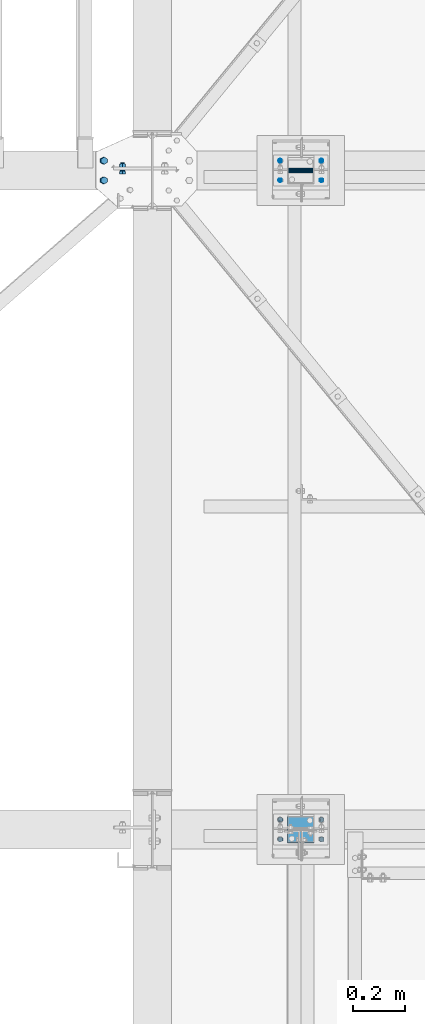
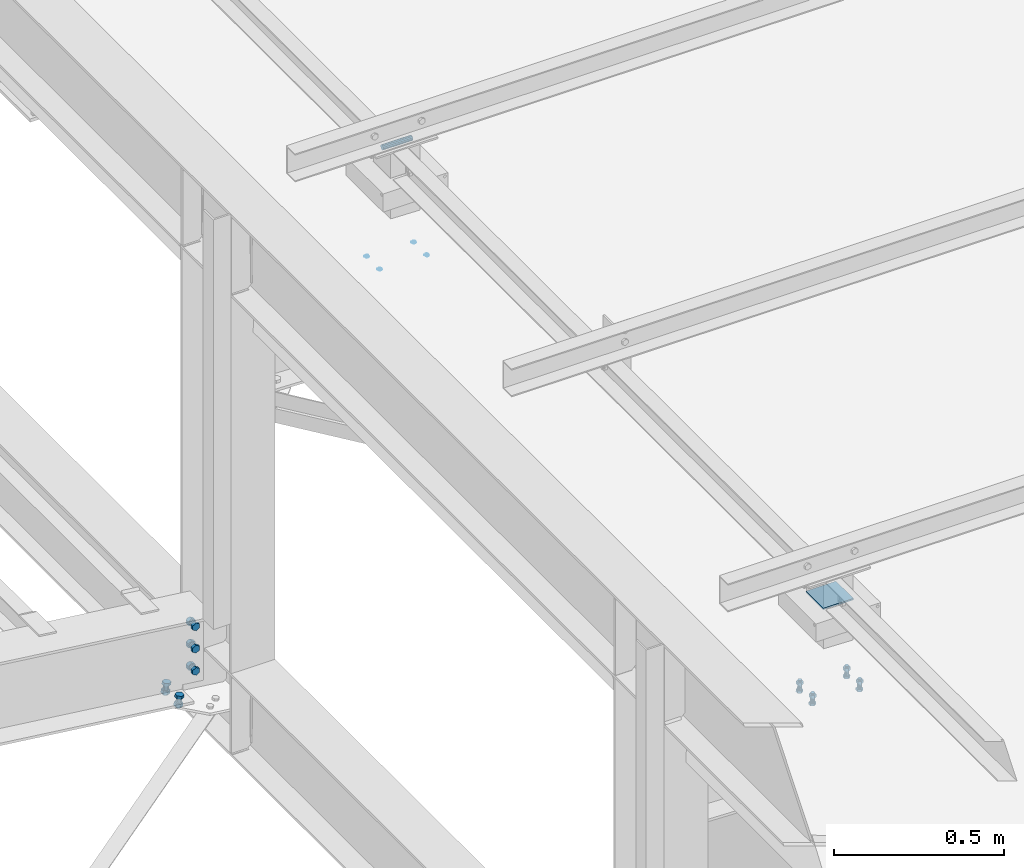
# One storey, part 304 of 3134: 6 mechanical fasteners, 5 elements without a shape of their own.
"""IFC2X3 building model written with IfcOpenShell, lengths in millimetres."""

import ifcopenshell
import ifcopenshell.guid

model = None  # the IFC model being written
_history = None  # IfcOwnerHistory: only IFC2X3 demands one
_inside = {}  # id of a spatial element -> (the spatial element, [elements in it])
_under = {}  # id of a project, library or spatial element -> (it, [spatial elements below it])
_declared = {}  # id of a project -> (the project, [libraries it declares])
_typed = {}  # id of a type object -> (the type object, [elements of that type])
_made_of = {}  # id of a material, layer set ... -> (it, [elements and type objects made of it])


def new_model(schema):
    """Start an empty IFC model of exactly this schema.

    Asked for "IFC4X3", IfcOpenShell would pick the latest addendum, in which some entities
    have other attributes; the version numbers below select the first issue.
    IFC2X3 requires an IfcOwnerHistory on every rooted entity: one is made here for all.
    """
    global model, _history
    if schema == "IFC4X3":
        model = ifcopenshell.file(schema_version=(4, 3, 0, 0))
    else:
        model = ifcopenshell.file(schema=schema)
    _inside.clear()
    _under.clear()
    _declared.clear()
    _typed.clear()
    _made_of.clear()
    _history = None
    if model.schema == "IFC2X3":
        org = make("IfcOrganization", Name="unknown")
        user = make(
            "IfcPersonAndOrganization",
            ThePerson=make("IfcPerson", FamilyName="unknown"),
            TheOrganization=org,
        )
        app = make(
            "IfcApplication",
            ApplicationDeveloper=org,
            Version="unknown",
            ApplicationFullName="unknown",
            ApplicationIdentifier="unknown",
        )
        _history = make(
            "IfcOwnerHistory",
            OwningUser=user,
            OwningApplication=app,
            ChangeAction="ADDED",
            CreationDate=0,
        )
    return model


def make(cls, **values):
    """One entity of the class cls with the attributes given. An attribute that is None is left unset."""
    return model.create_entity(
        cls, **{name: value for name, value in values.items() if value is not None}
    )


def rooted(cls, **values):
    """An entity with a GlobalId (a new one), such as an element, a storey or a relation."""
    return make(cls, GlobalId=ifcopenshell.guid.new(), OwnerHistory=_history, **values)


def si_unit(unit_type, name, prefix=None):
    """IfcSIUnit, for example si_unit("LENGTHUNIT", "METRE", prefix="MILLI")."""
    return make("IfcSIUnit", UnitType=unit_type, Prefix=prefix, Name=name)


def assignment(units):
    """IfcUnitAssignment: the units of a project."""
    return None if units is None else make("IfcUnitAssignment", Units=units)


def point(xyz):
    """IfcCartesianPoint."""
    return None if xyz is None else make("IfcCartesianPoint", Coordinates=xyz)


def direction(xyz):
    """IfcDirection."""
    return None if xyz is None else make("IfcDirection", DirectionRatios=xyz)


def frame(location, z_axis=None, x_axis=None):
    """IfcAxis2Placement3D, a coordinate frame: its origin and axes. An axis left out is left unset."""
    return make(
        "IfcAxis2Placement3D",
        Location=point(location),
        Axis=direction(z_axis),
        RefDirection=direction(x_axis),
    )


def origin_with_axes():
    """The frame at (0, 0, 0) with the z axis (0, 0, 1) and the x axis (1, 0, 0) written out."""
    return frame((0.0, 0.0, 0.0), z_axis=(0.0, 0.0, 1.0), x_axis=(1.0, 0.0, 0.0))


def place(relative_to, where):
    """IfcLocalPlacement: puts the frame where relative to a parent placement (None: the world)."""
    return make(
        "IfcLocalPlacement", PlacementRelTo=relative_to, RelativePlacement=where
    )


def context(
    kind, dimensions, precision=None, world=None, true_north=None, identifier=None
):
    """IfcGeometricRepresentationContext, for example the 3D "Model" context."""
    return make(
        "IfcGeometricRepresentationContext",
        ContextIdentifier=identifier,
        ContextType=kind,
        CoordinateSpaceDimension=dimensions,
        Precision=precision,
        WorldCoordinateSystem=world,
        TrueNorth=true_north,
    )


def subcontext(parent, identifier, kind, view, scale=None):
    """IfcGeometricRepresentationSubContext, for example "Body" below "Model"."""
    return make(
        "IfcGeometricRepresentationSubContext",
        ContextIdentifier=identifier,
        ContextType=kind,
        ParentContext=parent,
        TargetScale=scale,
        TargetView=view,
    )


def project(units=None, contexts=None):
    """IfcProject with its units and contexts."""
    return rooted(
        "IfcProject",
        Name="project",
        RepresentationContexts=contexts,
        UnitsInContext=assignment(units),
    )


def spatial(cls, under=None, at=None, **own):
    """A site, building, storey or space (cls), placed at a placement, below another one or the project."""
    s = rooted(cls, ObjectPlacement=at, **own)
    if under is not None:
        _under.setdefault(under.id(), (under, []))[1].append(s)
    return s


def faces_of(points, faces, orient=None, outer=None):
    """IfcFace entities. A face is a list of loops; a loop is a list of indices into points, from 0.

    orient and outer hold one flag for each loop. By default every Orientation is true, the
    first loop of a face is its IfcFaceOuterBound and the others are IfcFaceBound.
    """
    made = []
    for i, loops in enumerate(faces):
        bounds = []
        for j, loop in enumerate(loops):
            is_outer = j == 0 if outer is None else outer[i][j]
            bounds.append(
                make(
                    "IfcFaceOuterBound" if is_outer else "IfcFaceBound",
                    Bound=make("IfcPolyLoop", Polygon=[points[k] for k in loop]),
                    Orientation=True if orient is None else orient[i][j],
                )
            )
        made.append(make("IfcFace", Bounds=bounds))
    return made


def faceted_brep(points, faces, orient=None, outer=None, voids=None):
    """IfcFacetedBrep: a solid bounded by flat faces; with voids (closed shells), ...WithVoids."""
    shared = [point(p) for p in points]
    hull = make("IfcClosedShell", CfsFaces=faces_of(shared, faces, orient, outer))
    if voids is None:
        return make("IfcFacetedBrep", Outer=hull)
    return make(
        "IfcFacetedBrepWithVoids",
        Outer=hull,
        Voids=[
            make(cls, CfsFaces=faces_of(shared, fs, o, b)) for cls, fs, o, b in voids
        ],
    )


def shape(context_of_items, identifier, shape_type, items):
    """IfcShapeRepresentation: the items that make up one representation, for example the "Body"."""
    return make(
        "IfcShapeRepresentation",
        ContextOfItems=context_of_items,
        RepresentationIdentifier=identifier,
        RepresentationType=shape_type,
        Items=items,
    )


def source(mapping_origin, context_of_items, identifier, shape_type, items):
    """IfcRepresentationMap: a shape defined once, which mapped items show again and again."""
    return make(
        "IfcRepresentationMap",
        MappingOrigin=mapping_origin,
        MappedRepresentation=shape(context_of_items, identifier, shape_type, items),
    )


def transform(
    local_origin,
    x_axis=None,
    y_axis=None,
    z_axis=None,
    scale=None,
    scale2=None,
    scale3=None,
    uniform=True,
):
    """IfcCartesianTransformationOperator3D, or its non-uniform kind. x_axis, y_axis, z_axis: its Axis1, 2, 3."""
    if uniform:
        return make(
            "IfcCartesianTransformationOperator3D",
            Axis1=direction(x_axis),
            Axis2=direction(y_axis),
            LocalOrigin=point(local_origin),
            Scale=scale,
            Axis3=direction(z_axis),
        )
    return make(
        "IfcCartesianTransformationOperator3DnonUniform",
        Axis1=direction(x_axis),
        Axis2=direction(y_axis),
        LocalOrigin=point(local_origin),
        Scale=scale,
        Axis3=direction(z_axis),
        Scale2=scale2,
        Scale3=scale3,
    )


def mapped(mapping_source, mapping_target):
    """IfcMappedItem: shows the shape of a source again, moved by a transform."""
    return make(
        "IfcMappedItem", MappingSource=mapping_source, MappingTarget=mapping_target
    )


def material(Name=None, Category=None):
    """IfcMaterial."""
    return make("IfcMaterial", Name=Name, Category=Category)


def made_of(thing, what):
    """Note that an element or type object is made of a material, layer set ...; save() writes the relation."""
    if what is not None:
        _made_of.setdefault(what.id(), (what, []))[1].append(thing)
    return thing


def type_object(cls, material=None, **own):
    """A type object (cls), such as IfcWallType, which elements share."""
    return made_of(rooted(cls, **own), material)


def element(
    cls,
    number,
    at=None,
    inside=None,
    cuts=None,
    type_object=None,
    material=None,
    context=None,
    identifier="Body",
    shape_type=None,
    held_by="IfcProductDefinitionShape",
    body=None,
    shapes=None,
    **own,
):
    """One element of the class cls, such as IfcWall. Its Tag is "e" and its number.

    at: its placement. inside: the storey or other place that contains it. cuts: it is an
    opening in that element (IfcRelVoidsElement). A single representation is given by context,
    identifier, shape_type and body (its items); several are given by shapes. held_by: the class
    of the entity that holds the representations. save() writes the other relations.
    """
    e = rooted(cls, Tag="e%d" % number, ObjectPlacement=at, **own)
    if body is not None:
        shapes = [shape(context, identifier, shape_type, body)]
    if shapes is not None:
        e.Representation = make(held_by, Representations=shapes)
    if inside is not None:
        _inside.setdefault(inside.id(), (inside, []))[1].append(e)
    if cuts is not None:
        rooted(
            "IfcRelVoidsElement", RelatingBuildingElement=cuts, RelatedOpeningElement=e
        )
    if type_object is not None:
        _typed.setdefault(type_object.id(), (type_object, []))[1].append(e)
    return made_of(e, material)


def aggregate(whole, parts):
    """IfcRelAggregates: a whole, such as a stair, and the parts it consists of."""
    return rooted("IfcRelAggregates", RelatingObject=whole, RelatedObjects=parts)


def save(model, path):
    """Write the relations noted so far, then the file.

    IfcRelAggregates (storeys below a building ...), IfcRelContainedInSpatialStructure (elements
    in a storey), IfcRelDefinesByType, IfcRelAssociatesMaterial and IfcRelDeclares: one each for
    every whole, place, type object, material and project.
    """
    for whole, parts in _under.values():
        aggregate(whole, parts)
    for where, things in _inside.values():
        rooted(
            "IfcRelContainedInSpatialStructure",
            RelatedElements=things,
            RelatingStructure=where,
        )
    for kind, things in _typed.values():
        rooted("IfcRelDefinesByType", RelatedObjects=things, RelatingType=kind)
    for what, things in _made_of.values():
        rooted("IfcRelAssociatesMaterial", RelatedObjects=things, RelatingMaterial=what)
    for by, libraries in _declared.values():
        rooted("IfcRelDeclares", RelatingContext=by, RelatedDefinitions=libraries)
    model.write(path)


model = new_model("IFC2X3")

# Units and contexts
model_context = context("Model", 3, precision=1e-05, world=origin_with_axes())
body_context = subcontext(model_context, "Body", "Model", "MODEL_VIEW")
ifc_project = project(units=[si_unit("LENGTHUNIT", "METRE", prefix="MILLI"), si_unit("AREAUNIT", "SQUARE_METRE"), si_unit("VOLUMEUNIT", "CUBIC_METRE"), si_unit("MASSUNIT", "GRAM", prefix="KILO"), si_unit("TIMEUNIT", "SECOND"), si_unit("PLANEANGLEUNIT", "RADIAN"), si_unit("SOLIDANGLEUNIT", "STERADIAN"), si_unit("THERMODYNAMICTEMPERATUREUNIT", "DEGREE_CELSIUS"), si_unit("LUMINOUSINTENSITYUNIT", "LUMEN")], contexts=[model_context])

# Site, building, storey
site_placement = place(None, origin_with_axes())
site = spatial("IfcSite", under=ifc_project, at=site_placement, CompositionType="ELEMENT")
building_placement = place(site_placement, origin_with_axes())
building = spatial("IfcBuilding", under=site, at=building_placement, Name="Undefined", CompositionType="ELEMENT")
storey_placement = place(building_placement, origin_with_axes())
storey = spatial("IfcBuildingStorey", under=building, at=storey_placement, Name="Undefined", CompositionType="ELEMENT", Elevation=0.0)

# Assembly, mechanical fasteners
assembly_1_placement = place(storey_placement, origin_with_axes())
assembly_1 = element("IfcElementAssembly", 1, at=assembly_1_placement, inside=storey, Name="300", AssemblyPlace="NOTDEFINED", PredefinedType="RIGID_FRAME")
ifc_material_1 = material(Name="8.8")
mechanical_fastener_type = type_object("IfcMechanicalFastenerType", Name="Bolt assembly")
shared_shape_1 = source(origin_with_axes(), body_context, "Body", "Brep", [
    faceted_brep([(13.856406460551, -19.199990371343, 0.0), (6.92820323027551, -19.199990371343, 12.0), (-6.92820323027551, -19.199990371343, 12.0), (-13.856406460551, -19.199990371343, 1.69692038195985e-15), (-6.92820323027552, -19.199990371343, -12.0), (6.9282032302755, -19.199990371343, -12.0), (6.9282032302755, -9.19999037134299, -12.0), (-6.92820323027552, -9.19999037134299, -12.0), (-13.856406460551, -9.19999037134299, 1.69692038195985e-15), (-6.92820323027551, -9.19999037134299, 12.0), (6.92820323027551, -9.19999037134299, 12.0), (13.856406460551, -9.19999037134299, 0.0), (8.0, -9.19999037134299, 0.0), (6.92820323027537, -9.19999037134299, 4.00000000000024), (3.99999999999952, -9.19999037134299, 6.92820323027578), (-8.29068785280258e-13, -9.19999037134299, 8.0), (-4.00000000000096, -9.19999037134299, 6.92820323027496), (-6.9282032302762, -9.19999037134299, 3.99999999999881), (-8.0, -9.19999037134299, -1.65813757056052e-12), (-6.92820323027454, -9.19999037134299, -4.00000000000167), (-3.99999999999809, -9.19999037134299, -6.92820323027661), (2.47832457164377e-12, -9.19999037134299, -8.0), (4.00000000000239, -9.19999037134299, -6.92820323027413), (6.92820323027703, -9.19999037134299, -3.99999999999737), (6.92820323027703, 25.800009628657, -3.99999999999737), (4.00000000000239, 25.800009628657, -6.92820323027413), (2.47832457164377e-12, 25.800009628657, -8.0), (-3.99999999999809, 25.800009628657, -6.92820323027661), (-6.92820323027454, 25.800009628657, -4.00000000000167), (-8.0, 25.800009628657, -1.65813757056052e-12), (-6.9282032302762, 25.800009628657, 3.99999999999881), (-4.00000000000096, 25.800009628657, 6.92820323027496), (-8.29068785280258e-13, 25.800009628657, 8.0), (3.99999999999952, 25.800009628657, 6.92820323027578), (6.92820323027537, 25.800009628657, 4.00000000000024), (8.0, 25.800009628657, 0.0), (13.856406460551, 8.00000637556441, 0.0), (6.92820323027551, 8.00000637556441, 12.0), (-6.92820323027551, 8.00000637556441, 12.0), (-13.856406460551, 8.00000637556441, 1.69692038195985e-15), (-6.92820323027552, 8.00000637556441, -12.0), (6.9282032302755, 8.00000637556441, -12.0), (6.9282032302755, 21.0000063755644, -12.0), (-6.92820323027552, 21.0000063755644, -12.0), (-13.856406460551, 21.0000063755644, 1.69692038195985e-15), (-6.92820323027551, 21.0000063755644, 12.0), (6.92820323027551, 21.0000063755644, 12.0), (13.856406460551, 21.0000063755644, 0.0)], [[[0, 1, 2, 3, 4, 5]], [[6, 7, 8, 9, 10, 11]], [[0, 11, 10, 1]], [[1, 10, 9, 2]], [[2, 9, 8, 3]], [[3, 8, 7, 4]], [[4, 7, 6, 5]], [[5, 6, 11, 0]], [[12, 13, 14, 15, 16, 17, 18, 19, 20, 21, 22, 23]], [[24, 25, 26, 27, 28, 29, 30, 31, 32, 33, 34, 35]], [[12, 35, 34, 13]], [[13, 34, 33, 14]], [[14, 33, 32, 15]], [[15, 32, 31, 16]], [[16, 31, 30, 17]], [[17, 30, 29, 18]], [[18, 29, 28, 19]], [[19, 28, 27, 20]], [[20, 27, 26, 21]], [[21, 26, 25, 22]], [[22, 25, 24, 23]], [[23, 24, 35, 12]], [[36, 37, 38, 39, 40, 41]], [[42, 43, 44, 45, 46, 47]], [[36, 47, 46, 37]], [[37, 46, 45, 38]], [[38, 45, 44, 39]], [[39, 44, 43, 40]], [[40, 43, 42, 41]], [[41, 42, 47, 36]]]),
    faceted_brep([(9.0, -0.1, 0.0), (7.79422863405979, -0.1, 4.50000000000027), (4.49999999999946, -0.1, 7.79422863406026), (-9.3270238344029e-13, -0.1, 9.0), (-4.50000000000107, -0.1, 7.79422863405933), (-7.79422863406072, -0.1, 4.49999999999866), (-9.0, -0.1, -1.86540476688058e-12), (-7.79422863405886, -0.1, -4.50000000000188), (-4.49999999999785, -0.1, -7.79422863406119), (2.78811514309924e-12, -0.1, -9.0), (4.50000000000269, -0.1, -7.7942286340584), (7.79422863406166, -0.1, -4.49999999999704), (7.79422863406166, 8.00000000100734, -4.49999999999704), (4.50000000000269, 8.00000000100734, -7.7942286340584), (2.78811514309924e-12, 8.00000000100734, -9.0), (-4.49999999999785, 8.00000000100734, -7.79422863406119), (-7.79422863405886, 8.00000000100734, -4.50000000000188), (-9.0, 8.00000000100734, -1.86540476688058e-12), (-7.79422863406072, 8.00000000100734, 4.49999999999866), (-4.50000000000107, 8.00000000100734, 7.79422863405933), (-9.3270238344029e-13, 8.00000000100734, 9.0), (4.49999999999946, 8.00000000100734, 7.79422863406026), (7.79422863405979, 8.00000000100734, 4.50000000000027), (9.0, 8.00000000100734, 0.0), (9.0, -9.09999037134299, 0.0), (7.79422863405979, -9.09999037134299, 4.50000000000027), (4.49999999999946, -9.09999037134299, 7.79422863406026), (-9.3270238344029e-13, -9.09999037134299, 9.0), (-4.50000000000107, -9.09999037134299, 7.79422863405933), (-7.79422863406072, -9.09999037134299, 4.49999999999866), (-9.0, -9.09999037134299, -1.86540476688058e-12), (-7.79422863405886, -9.09999037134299, -4.50000000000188), (-4.49999999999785, -9.09999037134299, -7.79422863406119), (2.78811514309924e-12, -9.09999037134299, -9.0), (4.50000000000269, -9.09999037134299, -7.7942286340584), (7.79422863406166, -9.09999037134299, -4.49999999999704), (7.79422863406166, 0.100000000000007, -4.49999999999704), (4.50000000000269, 0.100000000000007, -7.7942286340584), (2.78811514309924e-12, 0.100000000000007, -9.0), (-4.49999999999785, 0.100000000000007, -7.79422863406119), (-7.79422863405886, 0.100000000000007, -4.50000000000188), (-9.0, 0.100000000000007, -1.86540476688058e-12), (-7.79422863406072, 0.100000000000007, 4.49999999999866), (-4.50000000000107, 0.100000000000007, 7.79422863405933), (-9.3270238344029e-13, 0.100000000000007, 9.0), (4.49999999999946, 0.100000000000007, 7.79422863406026), (7.79422863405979, 0.100000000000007, 4.50000000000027), (9.0, 0.100000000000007, 0.0)], [[[0, 1, 2, 3, 4, 5, 6, 7, 8, 9, 10, 11]], [[12, 13, 14, 15, 16, 17, 18, 19, 20, 21, 22, 23]], [[0, 23, 22, 1]], [[1, 22, 21, 2]], [[2, 21, 20, 3]], [[3, 20, 19, 4]], [[4, 19, 18, 5]], [[5, 18, 17, 6]], [[6, 17, 16, 7]], [[7, 16, 15, 8]], [[8, 15, 14, 9]], [[9, 14, 13, 10]], [[10, 13, 12, 11]], [[11, 12, 23, 0]], [[24, 25, 26, 27, 28, 29, 30, 31, 32, 33, 34, 35]], [[36, 37, 38, 39, 40, 41, 42, 43, 44, 45, 46, 47]], [[24, 47, 46, 25]], [[25, 46, 45, 26]], [[26, 45, 44, 27]], [[27, 44, 43, 28]], [[28, 43, 42, 29]], [[29, 42, 41, 30]], [[30, 41, 40, 31]], [[31, 40, 39, 32]], [[32, 39, 38, 33]], [[33, 38, 37, 34]], [[34, 37, 36, 35]], [[35, 36, 47, 24]]]),
])
mechanical_fastener_1_placement = place(assembly_1_placement, frame((67361.7539628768, 5137.99951302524, 4116.78546253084), z_axis=(0.992623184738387, -1.63108538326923e-05, -0.12124031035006), x_axis=(-1.62000016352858e-05, -0.999999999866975, 1.90000018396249e-06)))
mechanical_fastener_1 = element("IfcMechanicalFastener", 2, at=mechanical_fastener_1_placement, type_object=mechanical_fastener_type, material=ifc_material_1, Name="Bolt assembly", NominalDiameter=16.0, NominalLength=35.0, context=body_context, shape_type="MappedRepresentation", body=[
    mapped(shared_shape_1, transform((0.0, 0.0, 0.0))),
    mapped(shared_shape_1, transform((76.0, 0.0, 0.0))),
])
shared_shape_2 = source(origin_with_axes(), body_context, "Body", "Brep", [
    faceted_brep([(13.856406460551, -13.0499999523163, 0.0), (6.92820323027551, -13.0499999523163, 12.0), (-6.92820323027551, -13.0499999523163, 12.0), (-13.856406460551, -13.0499999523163, 1.69692038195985e-15), (-6.92820323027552, -13.0499999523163, -12.0), (6.9282032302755, -13.0499999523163, -12.0), (6.9282032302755, -3.04999995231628, -12.0), (-6.92820323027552, -3.04999995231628, -12.0), (-13.856406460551, -3.04999995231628, 1.69692038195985e-15), (-6.92820323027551, -3.04999995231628, 12.0), (6.92820323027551, -3.04999995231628, 12.0), (13.856406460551, -3.04999995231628, 0.0), (8.0, -3.04999995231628, 0.0), (6.92820323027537, -3.04999995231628, 4.00000000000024), (3.99999999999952, -3.04999995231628, 6.92820323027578), (-8.29068785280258e-13, -3.04999995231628, 8.0), (-4.00000000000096, -3.04999995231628, 6.92820323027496), (-6.9282032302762, -3.04999995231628, 3.99999999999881), (-8.0, -3.04999995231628, -1.65813757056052e-12), (-6.92820323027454, -3.04999995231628, -4.00000000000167), (-3.99999999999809, -3.04999995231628, -6.92820323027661), (2.47832457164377e-12, -3.04999995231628, -8.0), (4.00000000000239, -3.04999995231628, -6.92820323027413), (6.92820323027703, -3.04999995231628, -3.99999999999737), (6.92820323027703, 31.9500000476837, -3.99999999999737), (4.00000000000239, 31.9500000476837, -6.92820323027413), (2.47832457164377e-12, 31.9500000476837, -8.0), (-3.99999999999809, 31.9500000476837, -6.92820323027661), (-6.92820323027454, 31.9500000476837, -4.00000000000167), (-8.0, 31.9500000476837, -1.65813757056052e-12), (-6.9282032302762, 31.9500000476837, 3.99999999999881), (-4.00000000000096, 31.9500000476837, 6.92820323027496), (-8.29068785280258e-13, 31.9500000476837, 8.0), (3.99999999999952, 31.9500000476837, 6.92820323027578), (6.92820323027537, 31.9500000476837, 4.00000000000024), (8.0, 31.9500000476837, 0.0), (13.856406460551, 13.0500000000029, 0.0), (6.92820323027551, 13.0500000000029, 12.0), (-6.92820323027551, 13.0500000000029, 12.0), (-13.856406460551, 13.0500000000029, 1.69692038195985e-15), (-6.92820323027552, 13.0500000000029, -12.0), (6.9282032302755, 13.0500000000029, -12.0), (6.9282032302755, 26.0500000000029, -12.0), (-6.92820323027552, 26.0500000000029, -12.0), (-13.856406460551, 26.0500000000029, 1.69692038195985e-15), (-6.92820323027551, 26.0500000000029, 12.0), (6.92820323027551, 26.0500000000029, 12.0), (13.856406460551, 26.0500000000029, 0.0)], [[[0, 1, 2, 3, 4, 5]], [[6, 7, 8, 9, 10, 11]], [[0, 11, 10, 1]], [[1, 10, 9, 2]], [[2, 9, 8, 3]], [[3, 8, 7, 4]], [[4, 7, 6, 5]], [[5, 6, 11, 0]], [[12, 13, 14, 15, 16, 17, 18, 19, 20, 21, 22, 23]], [[24, 25, 26, 27, 28, 29, 30, 31, 32, 33, 34, 35]], [[12, 35, 34, 13]], [[13, 34, 33, 14]], [[14, 33, 32, 15]], [[15, 32, 31, 16]], [[16, 31, 30, 17]], [[17, 30, 29, 18]], [[18, 29, 28, 19]], [[19, 28, 27, 20]], [[20, 27, 26, 21]], [[21, 26, 25, 22]], [[22, 25, 24, 23]], [[23, 24, 35, 12]], [[36, 37, 38, 39, 40, 41]], [[42, 43, 44, 45, 46, 47]], [[36, 47, 46, 37]], [[37, 46, 45, 38]], [[38, 45, 44, 39]], [[39, 44, 43, 40]], [[40, 43, 42, 41]], [[41, 42, 47, 36]]]),
    faceted_brep([(9.0, 2.95000000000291, 0.0), (7.79422863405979, 2.95000000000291, 4.50000000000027), (4.49999999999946, 2.95000000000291, 7.79422863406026), (-9.3270238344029e-13, 2.95000000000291, 9.0), (-4.50000000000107, 2.95000000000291, 7.79422863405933), (-7.79422863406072, 2.95000000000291, 4.49999999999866), (-9.0, 2.95000000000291, -1.86540476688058e-12), (-7.79422863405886, 2.95000000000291, -4.50000000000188), (-4.49999999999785, 2.95000000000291, -7.79422863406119), (2.78811514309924e-12, 2.95000000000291, -9.0), (4.50000000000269, 2.95000000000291, -7.7942286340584), (7.79422863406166, 2.95000000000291, -4.49999999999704), (7.79422863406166, 13.0500000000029, -4.49999999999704), (4.50000000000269, 13.0500000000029, -7.7942286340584), (2.78811514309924e-12, 13.0500000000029, -9.0), (-4.49999999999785, 13.0500000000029, -7.79422863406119), (-7.79422863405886, 13.0500000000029, -4.50000000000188), (-9.0, 13.0500000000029, -1.86540476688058e-12), (-7.79422863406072, 13.0500000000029, 4.49999999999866), (-4.50000000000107, 13.0500000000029, 7.79422863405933), (-9.3270238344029e-13, 13.0500000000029, 9.0), (4.49999999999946, 13.0500000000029, 7.79422863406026), (7.79422863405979, 13.0500000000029, 4.50000000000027), (9.0, 13.0500000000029, 0.0), (9.0, -2.94999995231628, 0.0), (7.79422863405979, -2.94999995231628, 4.50000000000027), (4.49999999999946, -2.94999995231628, 7.79422863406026), (-9.3270238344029e-13, -2.94999995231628, 9.0), (-4.50000000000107, -2.94999995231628, 7.79422863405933), (-7.79422863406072, -2.94999995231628, 4.49999999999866), (-9.0, -2.94999995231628, -1.86540476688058e-12), (-7.79422863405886, -2.94999995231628, -4.50000000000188), (-4.49999999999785, -2.94999995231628, -7.79422863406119), (2.78811514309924e-12, -2.94999995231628, -9.0), (4.50000000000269, -2.94999995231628, -7.7942286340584), (7.79422863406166, -2.94999995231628, -4.49999999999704), (7.79422863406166, 3.14999995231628, -4.49999999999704), (4.50000000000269, 3.14999995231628, -7.7942286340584), (2.78811514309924e-12, 3.14999995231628, -9.0), (-4.49999999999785, 3.14999995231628, -7.79422863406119), (-7.79422863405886, 3.14999995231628, -4.50000000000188), (-9.0, 3.14999995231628, -1.86540476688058e-12), (-7.79422863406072, 3.14999995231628, 4.49999999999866), (-4.50000000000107, 3.14999995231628, 7.79422863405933), (-9.3270238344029e-13, 3.14999995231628, 9.0), (4.49999999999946, 3.14999995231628, 7.79422863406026), (7.79422863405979, 3.14999995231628, 4.50000000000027), (9.0, 3.14999995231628, 0.0)], [[[0, 1, 2, 3, 4, 5, 6, 7, 8, 9, 10, 11]], [[12, 13, 14, 15, 16, 17, 18, 19, 20, 21, 22, 23]], [[0, 23, 22, 1]], [[1, 22, 21, 2]], [[2, 21, 20, 3]], [[3, 20, 19, 4]], [[4, 19, 18, 5]], [[5, 18, 17, 6]], [[6, 17, 16, 7]], [[7, 16, 15, 8]], [[8, 15, 14, 9]], [[9, 14, 13, 10]], [[10, 13, 12, 11]], [[11, 12, 23, 0]], [[24, 25, 26, 27, 28, 29, 30, 31, 32, 33, 34, 35]], [[36, 37, 38, 39, 40, 41, 42, 43, 44, 45, 46, 47]], [[24, 47, 46, 25]], [[25, 46, 45, 26]], [[26, 45, 44, 27]], [[27, 44, 43, 28]], [[28, 43, 42, 29]], [[29, 42, 41, 30]], [[30, 41, 40, 31]], [[31, 40, 39, 32]], [[32, 39, 38, 33]], [[33, 38, 37, 34]], [[34, 37, 36, 35]], [[35, 36, 47, 24]]]),
])
mechanical_fastener_2_placement = place(assembly_1_placement, frame((67435.0, 5100.0, 4337.44269270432), z_axis=(1.0, 0.0, 0.0), x_axis=(0.0, 0.0, -1.0)))
mechanical_fastener_2 = element("IfcMechanicalFastener", 3, at=mechanical_fastener_2_placement, type_object=mechanical_fastener_type, material=ifc_material_1, Name="Bolt assembly", NominalDiameter=16.0, NominalLength=35.0, context=body_context, shape_type="MappedRepresentation", body=[
    mapped(shared_shape_2, transform((0.0, 0.0, 0.0))),
    mapped(shared_shape_2, transform((80.0, 0.0, 0.0))),
    mapped(shared_shape_2, transform((160.0, 0.0, 0.0))),
])
aggregate(assembly_1, [mechanical_fastener_1, mechanical_fastener_2])

# Assembly, mechanical fastener
assembly_2_placement = place(storey_placement, origin_with_axes())
assembly_2 = element("IfcElementAssembly", 4, at=assembly_2_placement, inside=storey, AssemblyPlace="NOTDEFINED", PredefinedType="RIGID_FRAME")
shared_shape_3 = source(origin_with_axes(), body_context, "Body", "Brep", [
    faceted_brep([(7.0, 13.0000253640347, 0.0), (6.06217782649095, 13.0000253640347, 3.50000000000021), (3.49999999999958, 13.0000253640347, 6.06217782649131), (-7.25435187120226e-13, 13.0000253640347, 7.0), (-3.50000000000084, 13.0000253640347, 6.06217782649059), (-6.06217782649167, 13.0000253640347, 3.49999999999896), (-7.0, 13.0000253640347, -1.45087037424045e-12), (-6.06217782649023, 13.0000253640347, -3.50000000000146), (-3.49999999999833, 13.0000253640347, -6.06217782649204), (2.1685340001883e-12, 13.0000253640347, -7.0), (3.50000000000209, 13.0000253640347, -6.06217782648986), (6.0621778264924, 13.0000253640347, -3.4999999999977), (6.0621778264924, 15.0999999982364, -3.4999999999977), (3.50000000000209, 15.0999999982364, -6.06217782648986), (2.1685340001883e-12, 15.0999999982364, -7.0), (-3.49999999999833, 15.0999999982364, -6.06217782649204), (-6.06217782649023, 15.0999999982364, -3.50000000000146), (-7.0, 15.0999999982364, -1.45087037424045e-12), (-6.06217782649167, 15.0999999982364, 3.49999999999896), (-3.50000000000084, 15.0999999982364, 6.06217782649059), (-7.25435187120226e-13, 15.0999999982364, 7.0), (3.49999999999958, 15.0999999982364, 6.06217782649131), (6.06217782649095, 15.0999999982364, 3.50000000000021), (7.0, 15.0999999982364, 0.0)], [[[0, 1, 2, 3, 4, 5, 6, 7, 8, 9, 10, 11]], [[12, 13, 14, 15, 16, 17, 18, 19, 20, 21, 22, 23]], [[0, 23, 22, 1]], [[1, 22, 21, 2]], [[2, 21, 20, 3]], [[3, 20, 19, 4]], [[4, 19, 18, 5]], [[5, 18, 17, 6]], [[6, 17, 16, 7]], [[7, 16, 15, 8]], [[8, 15, 14, 9]], [[9, 14, 13, 10]], [[10, 13, 12, 11]], [[11, 12, 23, 0]]]),
])
mechanical_fastener_3_placement = place(assembly_2_placement, frame((68124.3451187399, 5138.0, 5409.1772055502), z_axis=(-0.99951962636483, 0.0, 0.0309922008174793), x_axis=(0.0, -1.0, 0.0)))
mechanical_fastener_3 = element("IfcMechanicalFastener", 5, at=mechanical_fastener_3_placement, type_object=mechanical_fastener_type, material=ifc_material_1, Name="Bolt assembly", NominalDiameter=12.0, NominalLength=2.0, context=body_context, shape_type="MappedRepresentation", body=[
    mapped(shared_shape_3, transform((0.0, -5.32963895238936e-10, -79.9999999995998))),
    mapped(shared_shape_3, transform((76.0, -5.32963895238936e-10, -79.9999999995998))),
    mapped(shared_shape_3, transform((0.0, 5.3114490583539e-10, 79.9999999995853))),
    mapped(shared_shape_3, transform((76.0, 5.3114490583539e-10, 79.9999999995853))),
])
aggregate(assembly_2, [mechanical_fastener_3])

assembly_3_placement = place(storey_placement, origin_with_axes())
assembly_3 = element("IfcElementAssembly", 6, at=assembly_3_placement, inside=storey, AssemblyPlace="NOTDEFINED", PredefinedType="RIGID_FRAME")
shared_shape_4 = source(origin_with_axes(), body_context, "Body", "Brep", [
    faceted_brep([(9.0, -50.0, 0.0), (7.79422863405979, -50.0, 4.50000000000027), (4.49999999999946, -50.0, 7.79422863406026), (-9.3270238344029e-13, -50.0, 9.0), (-4.50000000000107, -50.0, 7.79422863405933), (-7.79422863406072, -50.0, 4.49999999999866), (-9.0, -50.0, -1.86540476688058e-12), (-7.79422863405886, -50.0, -4.50000000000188), (-4.49999999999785, -50.0, -7.79422863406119), (2.78811514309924e-12, -50.0, -9.0), (4.50000000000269, -50.0, -7.7942286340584), (7.79422863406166, -50.0, -4.49999999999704), (7.79422863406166, 50.1, -4.49999999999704), (4.50000000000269, 50.1, -7.7942286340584), (2.78811514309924e-12, 50.1, -9.0), (-4.49999999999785, 50.1, -7.79422863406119), (-7.79422863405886, 50.1, -4.50000000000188), (-9.0, 50.1, -1.86540476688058e-12), (-7.79422863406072, 50.1, 4.49999999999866), (-4.50000000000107, 50.1, 7.79422863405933), (-9.3270238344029e-13, 50.1, 9.0), (4.49999999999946, 50.1, 7.79422863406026), (7.79422863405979, 50.1, 4.50000000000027), (9.0, 50.1, 0.0)], [[[0, 1, 2, 3, 4, 5, 6, 7, 8, 9, 10, 11]], [[12, 13, 14, 15, 16, 17, 18, 19, 20, 21, 22, 23]], [[0, 23, 22, 1]], [[1, 22, 21, 2]], [[2, 21, 20, 3]], [[3, 20, 19, 4]], [[4, 19, 18, 5]], [[5, 18, 17, 6]], [[6, 17, 16, 7]], [[7, 16, 15, 8]], [[8, 15, 14, 9]], [[9, 14, 13, 10]], [[10, 13, 12, 11]], [[11, 12, 23, 0]]]),
])
mechanical_fastener_4_placement = place(assembly_3_placement, frame((68125.0, 5100.0, 5830.0), z_axis=(0.0, 1.0, 0.0), x_axis=(0.0, 0.0, 1.0)))
mechanical_fastener_4 = element("IfcMechanicalFastener", 7, at=mechanical_fastener_4_placement, type_object=mechanical_fastener_type, material=ifc_material_1, Name="Bolt assembly", NominalDiameter=16.0, NominalLength=100.0, context=body_context, shape_type="MappedRepresentation", body=[
    mapped(shared_shape_4, transform((0.0, 0.0, 0.0))),
])
aggregate(assembly_3, [mechanical_fastener_4])

assembly_4_placement = place(storey_placement, origin_with_axes())
assembly_4 = element("IfcElementAssembly", 8, at=assembly_4_placement, inside=storey, AssemblyPlace="NOTDEFINED", PredefinedType="RIGID_FRAME")
ifc_material_2 = material(Name="6.8")
shared_shape_5 = source(origin_with_axes(), body_context, "Body", "Brep", [
    faceted_brep([(51.5, 1.36424205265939e-12, 50.0), (51.3858192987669, 1.36424205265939e-12, 50.5740251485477), (51.0606601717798, 1.36424205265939e-12, 51.0606601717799), (50.5740251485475, 1.36424205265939e-12, 51.385819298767), (-50.0000000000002, 1.36424205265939e-12, 51.5), (-50.7500000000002, 1.36424205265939e-12, 51.2990381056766), (-51.2990381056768, 1.36424205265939e-12, 50.7499999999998), (-51.5, 1.36424205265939e-12, 49.9999999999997), (-51.5, 1.36424205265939e-12, -50.0000000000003), (-51.2990381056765, 1.36424205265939e-12, -50.7500000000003), (-50.7499999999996, 1.36424205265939e-12, -51.2990381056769), (-49.9999999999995, 1.36424205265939e-12, -51.5), (50.0000000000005, 1.36424205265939e-12, -51.5), (50.7500000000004, 1.36424205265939e-12, -51.2990381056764), (51.2990381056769, 1.36424205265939e-12, -50.7499999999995), (51.5, 1.36424205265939e-12, -49.9999999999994), (51.5, 5.10000000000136, -49.9999999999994), (51.2990381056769, 5.10000000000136, -50.7499999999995), (50.7500000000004, 5.10000000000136, -51.2990381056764), (50.0000000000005, 5.10000000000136, -51.5), (-49.9999999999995, 5.10000000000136, -51.5), (-50.7499999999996, 5.10000000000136, -51.2990381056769), (-51.2990381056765, 5.10000000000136, -50.7500000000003), (-51.5, 5.10000000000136, -50.0000000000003), (-51.5, 5.10000000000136, 49.9999999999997), (-51.2990381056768, 5.10000000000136, 50.7499999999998), (-50.7500000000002, 5.10000000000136, 51.2990381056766), (-50.0000000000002, 5.10000000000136, 51.5), (50.5740251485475, 5.10000000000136, 51.385819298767), (51.0606601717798, 5.10000000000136, 51.0606601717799), (51.3858192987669, 5.10000000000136, 50.5740251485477), (51.5, 5.10000000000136, 50.0)], [[[0, 1, 2, 3, 4, 5, 6, 7, 8, 9, 10, 11, 12, 13, 14, 15]], [[16, 17, 18, 19, 20, 21, 22, 23, 24, 25, 26, 27, 28, 29, 30, 31]], [[0, 31, 30, 1]], [[1, 30, 29, 2]], [[2, 29, 28, 3]], [[3, 28, 27, 4]], [[4, 27, 26, 5]], [[5, 26, 25, 6]], [[6, 25, 24, 7]], [[7, 24, 23, 8]], [[8, 23, 22, 9]], [[9, 22, 21, 10]], [[10, 21, 20, 11]], [[11, 20, 19, 12]], [[12, 19, 18, 13]], [[13, 18, 17, 14]], [[14, 17, 16, 15]], [[15, 16, 31, 0]]]),
])
mechanical_fastener_5_placement = place(assembly_4_placement, frame((68125.0, 2550.0, 5750.0), z_axis=(0.0, -1.0, 0.0), x_axis=(-1.0, 0.0, 0.0)))
mechanical_fastener_5 = element("IfcMechanicalFastener", 9, at=mechanical_fastener_5_placement, type_object=mechanical_fastener_type, material=ifc_material_2, Name="Bolt assembly", NominalDiameter=10.0, NominalLength=5.0, context=body_context, shape_type="MappedRepresentation", body=[
    mapped(shared_shape_5, transform((0.0, 0.0, 0.0))),
])
aggregate(assembly_4, [mechanical_fastener_5])

assembly_5_placement = place(storey_placement, origin_with_axes())
assembly_5 = element("IfcElementAssembly", 10, at=assembly_5_placement, inside=storey, Name="300", AssemblyPlace="NOTDEFINED", PredefinedType="RIGID_FRAME")
shared_shape_6 = source(origin_with_axes(), body_context, "Body", "Brep", [
    faceted_brep([(10.9696551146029, -10.2005960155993, 0.0), (5.48482755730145, -10.2005960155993, 9.5), (-5.48482755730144, -10.2005960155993, 9.5), (-10.9696551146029, -10.2005960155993, 1.34339530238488e-15), (-5.48482755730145, -10.2005960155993, -9.5), (5.48482755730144, -10.2005960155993, -9.50000000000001), (5.48482755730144, -2.20059601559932, -9.50000000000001), (-5.48482755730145, -2.20059601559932, -9.5), (-10.9696551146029, -2.20059601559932, 1.34339530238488e-15), (-5.48482755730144, -2.20059601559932, 9.5), (5.48482755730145, -2.20059601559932, 9.5), (10.9696551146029, -2.20059601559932, 0.0), (6.0, -2.20059601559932, 0.0), (5.19615242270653, -2.20059601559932, 3.00000000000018), (2.99999999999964, -2.20059601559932, 5.19615242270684), (-6.21801588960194e-13, -2.20059601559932, 6.0), (-3.00000000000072, -2.20059601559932, 5.19615242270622), (-5.19615242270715, -2.20059601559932, 2.9999999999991), (-6.0, -2.20059601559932, -1.24360317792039e-12), (-5.19615242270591, -2.20059601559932, -3.00000000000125), (-2.99999999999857, -2.20059601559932, -5.19615242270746), (1.85874342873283e-12, -2.20059601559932, -6.0), (3.00000000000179, -2.20059601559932, -5.1961524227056), (5.19615242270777, -2.20059601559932, -2.99999999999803), (5.19615242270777, 32.7994039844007, -2.99999999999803), (3.00000000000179, 32.7994039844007, -5.1961524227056), (1.85874342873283e-12, 32.7994039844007, -6.0), (-2.99999999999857, 32.7994039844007, -5.19615242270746), (-5.19615242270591, 32.7994039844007, -3.00000000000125), (-6.0, 32.7994039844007, -1.24360317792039e-12), (-5.19615242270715, 32.7994039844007, 2.9999999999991), (-3.00000000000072, 32.7994039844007, 5.19615242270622), (-6.21801588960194e-13, 32.7994039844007, 6.0), (2.99999999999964, 32.7994039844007, 5.19615242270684), (5.19615242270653, 32.7994039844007, 3.00000000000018), (6.0, 32.7994039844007, 0.0), (10.9696551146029, 17.0008987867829, 0.0), (5.48482755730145, 17.0008987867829, 9.5), (-5.48482755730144, 17.0008987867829, 9.5), (-10.9696551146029, 17.0008987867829, 1.34339530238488e-15), (-5.48482755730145, 17.0008987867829, -9.5), (5.48482755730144, 17.0008987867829, -9.50000000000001), (5.48482755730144, 27.0008987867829, -9.50000000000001), (-5.48482755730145, 27.0008987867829, -9.5), (-10.9696551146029, 27.0008987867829, 1.34339530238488e-15), (-5.48482755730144, 27.0008987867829, 9.5), (5.48482755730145, 27.0008987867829, 9.5), (10.9696551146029, 27.0008987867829, 0.0)], [[[0, 1, 2, 3, 4, 5]], [[6, 7, 8, 9, 10, 11]], [[0, 11, 10, 1]], [[1, 10, 9, 2]], [[2, 9, 8, 3]], [[3, 8, 7, 4]], [[4, 7, 6, 5]], [[5, 6, 11, 0]], [[12, 13, 14, 15, 16, 17, 18, 19, 20, 21, 22, 23]], [[24, 25, 26, 27, 28, 29, 30, 31, 32, 33, 34, 35]], [[12, 35, 34, 13]], [[13, 34, 33, 14]], [[14, 33, 32, 15]], [[15, 32, 31, 16]], [[16, 31, 30, 17]], [[17, 30, 29, 18]], [[18, 29, 28, 19]], [[19, 28, 27, 20]], [[20, 27, 26, 21]], [[21, 26, 25, 22]], [[22, 25, 24, 23]], [[23, 24, 35, 12]], [[36, 37, 38, 39, 40, 41]], [[42, 43, 44, 45, 46, 47]], [[36, 47, 46, 37]], [[37, 46, 45, 38]], [[38, 45, 44, 39]], [[39, 44, 43, 40]], [[40, 43, 42, 41]], [[41, 42, 47, 36]]]),
    faceted_brep([(7.0, 8.90089878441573, 0.0), (6.06217782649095, 8.90089878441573, 3.50000000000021), (3.49999999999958, 8.90089878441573, 6.06217782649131), (-7.25435187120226e-13, 8.90089878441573, 7.0), (-3.50000000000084, 8.90089878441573, 6.06217782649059), (-6.06217782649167, 8.90089878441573, 3.49999999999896), (-7.0, 8.90089878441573, -1.45087037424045e-12), (-6.06217782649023, 8.90089878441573, -3.50000000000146), (-3.49999999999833, 8.90089878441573, -6.06217782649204), (2.1685340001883e-12, 8.90089878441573, -7.0), (3.50000000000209, 8.90089878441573, -6.06217782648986), (6.0621778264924, 8.90089878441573, -3.4999999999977), (6.0621778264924, 17.0008987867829, -3.4999999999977), (3.50000000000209, 17.0008987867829, -6.06217782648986), (2.1685340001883e-12, 17.0008987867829, -7.0), (-3.49999999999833, 17.0008987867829, -6.06217782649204), (-6.06217782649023, 17.0008987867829, -3.50000000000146), (-7.0, 17.0008987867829, -1.45087037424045e-12), (-6.06217782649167, 17.0008987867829, 3.49999999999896), (-3.50000000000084, 17.0008987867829, 6.06217782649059), (-7.25435187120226e-13, 17.0008987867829, 7.0), (3.49999999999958, 17.0008987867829, 6.06217782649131), (6.06217782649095, 17.0008987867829, 3.50000000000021), (7.0, 17.0008987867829, 0.0), (7.0, -2.10059601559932, 0.0), (6.06217782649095, -2.10059601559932, 3.50000000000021), (3.49999999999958, -2.10059601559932, 6.06217782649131), (-7.25435187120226e-13, -2.10059601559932, 7.0), (-3.50000000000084, -2.10059601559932, 6.06217782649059), (-6.06217782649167, -2.10059601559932, 3.49999999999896), (-7.0, -2.10059601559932, -1.45087037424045e-12), (-6.06217782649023, -2.10059601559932, -3.50000000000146), (-3.49999999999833, -2.10059601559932, -6.06217782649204), (2.1685340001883e-12, -2.10059601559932, -7.0), (3.50000000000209, -2.10059601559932, -6.06217782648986), (6.0621778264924, -2.10059601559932, -3.4999999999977), (6.0621778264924, 7.09940379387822, -3.4999999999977), (3.50000000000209, 7.09940379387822, -6.06217782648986), (2.1685340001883e-12, 7.09940379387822, -7.0), (-3.49999999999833, 7.09940379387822, -6.06217782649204), (-6.06217782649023, 7.09940379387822, -3.50000000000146), (-7.0, 7.09940379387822, -1.45087037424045e-12), (-6.06217782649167, 7.09940379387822, 3.49999999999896), (-3.50000000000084, 7.09940379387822, 6.06217782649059), (-7.25435187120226e-13, 7.09940379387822, 7.0), (3.49999999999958, 7.09940379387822, 6.06217782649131), (6.06217782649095, 7.09940379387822, 3.50000000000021), (7.0, 7.09940379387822, 0.0)], [[[0, 1, 2, 3, 4, 5, 6, 7, 8, 9, 10, 11]], [[12, 13, 14, 15, 16, 17, 18, 19, 20, 21, 22, 23]], [[0, 23, 22, 1]], [[1, 22, 21, 2]], [[2, 21, 20, 3]], [[3, 20, 19, 4]], [[4, 19, 18, 5]], [[5, 18, 17, 6]], [[6, 17, 16, 7]], [[7, 16, 15, 8]], [[8, 15, 14, 9]], [[9, 14, 13, 10]], [[10, 13, 12, 11]], [[11, 12, 23, 0]], [[24, 25, 26, 27, 28, 29, 30, 31, 32, 33, 34, 35]], [[36, 37, 38, 39, 40, 41, 42, 43, 44, 45, 46, 47]], [[24, 47, 46, 25]], [[25, 46, 45, 26]], [[26, 45, 44, 27]], [[27, 44, 43, 28]], [[28, 43, 42, 29]], [[29, 42, 41, 30]], [[30, 41, 40, 31]], [[31, 40, 39, 32]], [[32, 39, 38, 33]], [[33, 38, 37, 34]], [[34, 37, 36, 35]], [[35, 36, 47, 24]]]),
])
mechanical_fastener_6_placement = place(assembly_5_placement, frame((68124.5351187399, 2588.0, 5415.1872055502), z_axis=(-0.99951962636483, 0.0, 0.0309922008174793), x_axis=(0.0, -1.0, 0.0)))
mechanical_fastener_6 = element("IfcMechanicalFastener", 11, at=mechanical_fastener_6_placement, type_object=mechanical_fastener_type, material=ifc_material_1, Name="Bolt assembly", NominalDiameter=12.0, NominalLength=35.0, context=body_context, shape_type="MappedRepresentation", body=[
    mapped(shared_shape_6, transform((0.0, -5.32963895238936e-10, -79.9999999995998))),
    mapped(shared_shape_6, transform((76.0, -5.32963895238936e-10, -79.9999999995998))),
    mapped(shared_shape_6, transform((0.0, 5.3114490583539e-10, 79.9999999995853))),
    mapped(shared_shape_6, transform((76.0, 5.3114490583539e-10, 79.9999999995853))),
])
aggregate(assembly_5, [mechanical_fastener_6])

save(model, "model.ifc")
